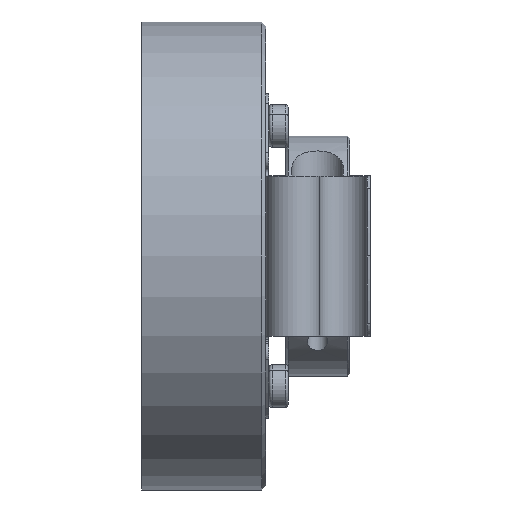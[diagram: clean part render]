
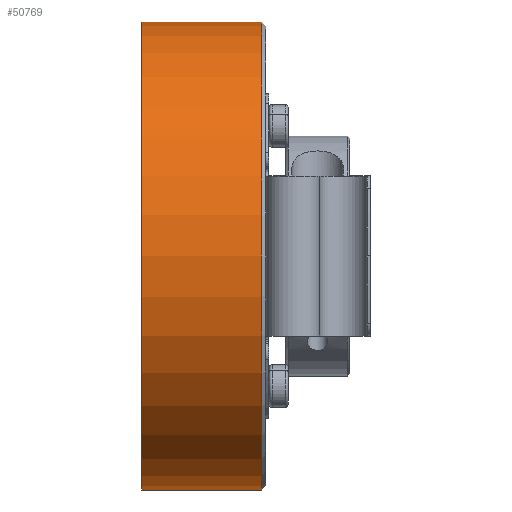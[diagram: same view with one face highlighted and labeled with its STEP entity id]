
A CAD part, left-side view. The second image highlights one B-rep face of the part: STEP entity #50769.
In plain terms, the highlighted cylindrical face has radius 29.25 mm (diameter 58.5 mm), a partial arc.
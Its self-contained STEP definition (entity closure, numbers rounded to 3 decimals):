
#1449 = CARTESIAN_POINT ( 'NONE',  ( 0., 32.8, 0. ) ) ;
#2089 = CARTESIAN_POINT ( 'NONE',  ( 0., 15.5, 0. ) ) ;
#2743 = EDGE_CURVE ( 'NONE', #25338, #47024, #42304, .T. ) ;
#5343 = DIRECTION ( 'NONE',  ( 0., 1., 0. ) ) ;
#9251 = LINE ( 'NONE', #12897, #29473 ) ;
#12262 = CYLINDRICAL_SURFACE ( 'NONE', #33791, 29.25 ) ;
#12897 = CARTESIAN_POINT ( 'NONE',  ( 0., 32.8, -29.25 ) ) ;
#13129 = ORIENTED_EDGE ( 'NONE', *, *, #49006, .T. ) ;
#13321 = VERTEX_POINT ( 'NONE', #15816 ) ;
#15714 = CARTESIAN_POINT ( 'NONE',  ( 0., 0.5, 29.25 ) ) ;
#15816 = CARTESIAN_POINT ( 'NONE',  ( 0., 0.5, -29.25 ) ) ;
#17784 = DIRECTION ( 'NONE',  ( 0., 0., 1. ) ) ;
#19190 = CARTESIAN_POINT ( 'NONE',  ( 0., 15.5, 29.25 ) ) ;
#19370 = DIRECTION ( 'NONE',  ( 0., 0., -1. ) ) ;
#20450 = EDGE_CURVE ( 'NONE', #13321, #25338, #9251, .T. ) ;
#25338 = VERTEX_POINT ( 'NONE', #48746 ) ;
#25582 = DIRECTION ( 'NONE',  ( 0., 1., 0. ) ) ;
#26766 = DIRECTION ( 'NONE',  ( 0., 1., 0. ) ) ;
#26999 = FACE_OUTER_BOUND ( 'NONE', #27506, .T. ) ;
#27229 = EDGE_CURVE ( 'NONE', #13321, #47552, #38718, .T. ) ;
#27506 = EDGE_LOOP ( 'NONE', ( #40160, #31146, #13129, #37766 ) ) ;
#29463 = DIRECTION ( 'NONE',  ( 0., 1., 0. ) ) ;
#29473 = VECTOR ( 'NONE', #25582, 1000. ) ;
#31146 = ORIENTED_EDGE ( 'NONE', *, *, #27229, .T. ) ;
#32425 = DIRECTION ( 'NONE',  ( 0., 0., 1. ) ) ;
#33734 = VECTOR ( 'NONE', #48054, 1000. ) ;
#33791 = AXIS2_PLACEMENT_3D ( 'NONE', #1449, #5343, #32425 ) ;
#35806 = CARTESIAN_POINT ( 'NONE',  ( 0., 32.8, 29.25 ) ) ;
#35861 = AXIS2_PLACEMENT_3D ( 'NONE', #46207, #26766, #19370 ) ;
#36190 = LINE ( 'NONE', #35806, #33734 ) ;
#37766 = ORIENTED_EDGE ( 'NONE', *, *, #2743, .F. ) ;
#38718 = CIRCLE ( 'NONE', #35861, 29.25 ) ;
#40160 = ORIENTED_EDGE ( 'NONE', *, *, #20450, .F. ) ;
#42304 = CIRCLE ( 'NONE', #44397, 29.25 ) ;
#44397 = AXIS2_PLACEMENT_3D ( 'NONE', #2089, #29463, #17784 ) ;
#46207 = CARTESIAN_POINT ( 'NONE',  ( 0., 0.5, 0. ) ) ;
#47024 = VERTEX_POINT ( 'NONE', #19190 ) ;
#47552 = VERTEX_POINT ( 'NONE', #15714 ) ;
#48054 = DIRECTION ( 'NONE',  ( 0., 1., 0. ) ) ;
#48746 = CARTESIAN_POINT ( 'NONE',  ( 0., 15.5, -29.25 ) ) ;
#49006 = EDGE_CURVE ( 'NONE', #47552, #47024, #36190, .T. ) ;
#50769 = ADVANCED_FACE ( 'NONE', ( #26999 ), #12262, .T. ) ;
